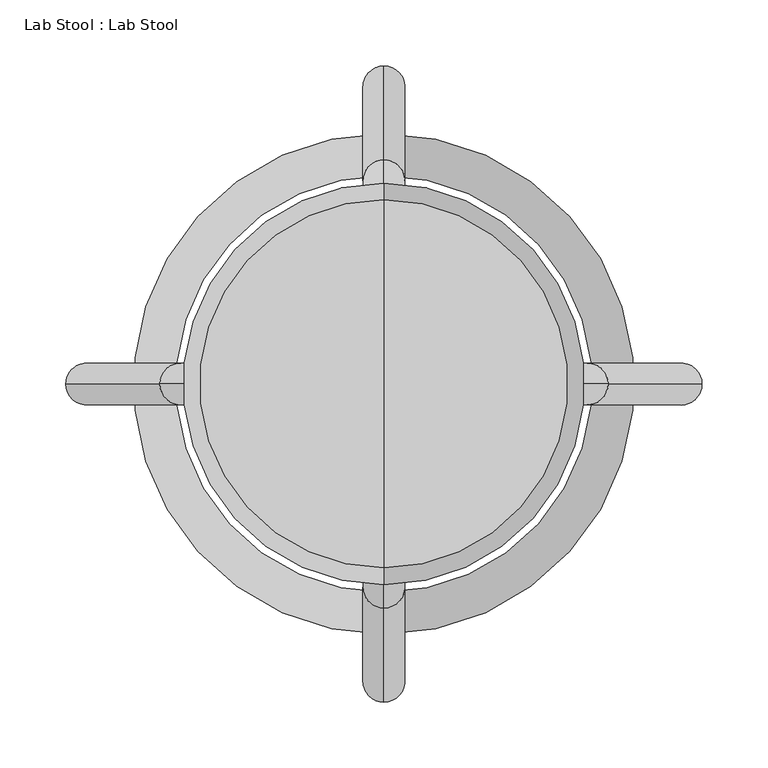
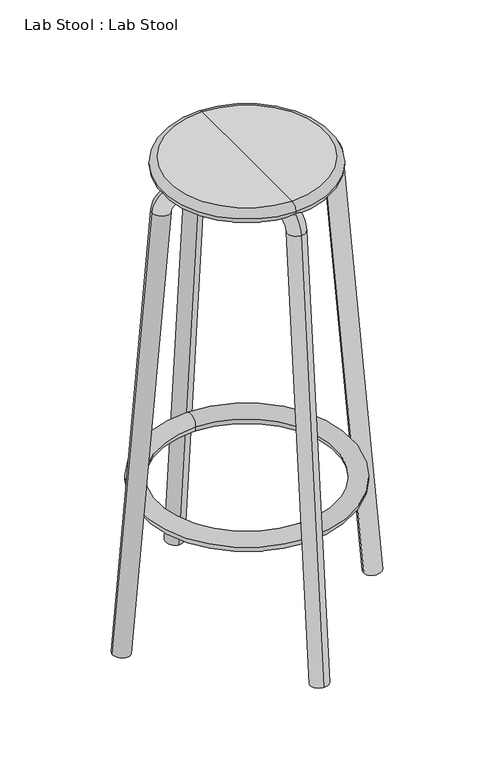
"""IFC4 building model written with IfcOpenShell, lengths in millimetres: furniture geometry, Lab Stool : Lab Stool."""

import ifcopenshell
import ifcopenshell.guid

model = None  # the IFC model being written
_history = None  # IfcOwnerHistory: only IFC2X3 demands one
_inside = {}  # id of a spatial element -> (the spatial element, [elements in it])
_under = {}  # id of a project, library or spatial element -> (it, [spatial elements below it])
_declared = {}  # id of a project -> (the project, [libraries it declares])
_typed = {}  # id of a type object -> (the type object, [elements of that type])
_made_of = {}  # id of a material, layer set ... -> (it, [elements and type objects made of it])


def new_model(schema):
    """Start an empty IFC model of exactly this schema.

    Asked for "IFC4X3", IfcOpenShell would pick the latest addendum, in which some entities
    have other attributes; the version numbers below select the first issue.
    IFC2X3 requires an IfcOwnerHistory on every rooted entity: one is made here for all.
    """
    global model, _history
    if schema == "IFC4X3":
        model = ifcopenshell.file(schema_version=(4, 3, 0, 0))
    else:
        model = ifcopenshell.file(schema=schema)
    _inside.clear()
    _under.clear()
    _declared.clear()
    _typed.clear()
    _made_of.clear()
    _history = None
    if model.schema == "IFC2X3":
        org = make("IfcOrganization", Name="unknown")
        user = make(
            "IfcPersonAndOrganization",
            ThePerson=make("IfcPerson", FamilyName="unknown"),
            TheOrganization=org,
        )
        app = make(
            "IfcApplication",
            ApplicationDeveloper=org,
            Version="unknown",
            ApplicationFullName="unknown",
            ApplicationIdentifier="unknown",
        )
        _history = make(
            "IfcOwnerHistory",
            OwningUser=user,
            OwningApplication=app,
            ChangeAction="ADDED",
            CreationDate=0,
        )
    return model


def make(cls, **values):
    """One entity of the class cls with the attributes given. An attribute that is None is left unset."""
    return model.create_entity(
        cls, **{name: value for name, value in values.items() if value is not None}
    )


def rooted(cls, **values):
    """An entity with a GlobalId (a new one), such as an element, a storey or a relation."""
    return make(cls, GlobalId=ifcopenshell.guid.new(), OwnerHistory=_history, **values)


def si_unit(unit_type, name, prefix=None):
    """IfcSIUnit, for example si_unit("LENGTHUNIT", "METRE", prefix="MILLI")."""
    return make("IfcSIUnit", UnitType=unit_type, Prefix=prefix, Name=name)


def assignment(units):
    """IfcUnitAssignment: the units of a project."""
    return None if units is None else make("IfcUnitAssignment", Units=units)


def point(xyz):
    """IfcCartesianPoint."""
    return None if xyz is None else make("IfcCartesianPoint", Coordinates=xyz)


def direction(xyz):
    """IfcDirection."""
    return None if xyz is None else make("IfcDirection", DirectionRatios=xyz)


def frame(location, z_axis=None, x_axis=None):
    """IfcAxis2Placement3D, a coordinate frame: its origin and axes. An axis left out is left unset."""
    return make(
        "IfcAxis2Placement3D",
        Location=point(location),
        Axis=direction(z_axis),
        RefDirection=direction(x_axis),
    )


def origin():
    """The frame at (0, 0, 0) with its axes left unset."""
    return frame((0.0, 0.0, 0.0))


def place(relative_to, where):
    """IfcLocalPlacement: puts the frame where relative to a parent placement (None: the world)."""
    return make(
        "IfcLocalPlacement", PlacementRelTo=relative_to, RelativePlacement=where
    )


def context(
    kind, dimensions, precision=None, world=None, true_north=None, identifier=None
):
    """IfcGeometricRepresentationContext, for example the 3D "Model" context."""
    return make(
        "IfcGeometricRepresentationContext",
        ContextIdentifier=identifier,
        ContextType=kind,
        CoordinateSpaceDimension=dimensions,
        Precision=precision,
        WorldCoordinateSystem=world,
        TrueNorth=true_north,
    )


def project(units=None, contexts=None):
    """IfcProject with its units and contexts."""
    return rooted(
        "IfcProject",
        Name="project",
        RepresentationContexts=contexts,
        UnitsInContext=assignment(units),
    )


def spatial(cls, under=None, at=None, **own):
    """A site, building, storey or space (cls), placed at a placement, below another one or the project."""
    s = rooted(cls, ObjectPlacement=at, **own)
    if under is not None:
        _under.setdefault(under.id(), (under, []))[1].append(s)
    return s


def circle_curve(where, radius):
    """IfcCircle in the frame where."""
    return make("IfcCircle", Position=where, Radius=radius)


def ellipse_curve(where, semi_axis1, semi_axis2):
    """IfcEllipse in the frame where."""
    return make(
        "IfcEllipse", Position=where, SemiAxis1=semi_axis1, SemiAxis2=semi_axis2
    )


def trimmed(basis, trim1, trim2, sense, master):
    """IfcTrimmedCurve: the piece of a basis curve between two trims."""
    return make(
        "IfcTrimmedCurve",
        BasisCurve=basis,
        Trim1=trim1,
        Trim2=trim2,
        SenseAgreement=sense,
        MasterRepresentation=master,
    )


def shape(context_of_items, identifier, shape_type, items):
    """IfcShapeRepresentation: the items that make up one representation, for example the "Body"."""
    return make(
        "IfcShapeRepresentation",
        ContextOfItems=context_of_items,
        RepresentationIdentifier=identifier,
        RepresentationType=shape_type,
        Items=items,
    )


def source(mapping_origin, context_of_items, identifier, shape_type, items):
    """IfcRepresentationMap: a shape defined once, which mapped items show again and again."""
    return make(
        "IfcRepresentationMap",
        MappingOrigin=mapping_origin,
        MappedRepresentation=shape(context_of_items, identifier, shape_type, items),
    )


def transform(
    local_origin,
    x_axis=None,
    y_axis=None,
    z_axis=None,
    scale=None,
    scale2=None,
    scale3=None,
    uniform=True,
):
    """IfcCartesianTransformationOperator3D, or its non-uniform kind. x_axis, y_axis, z_axis: its Axis1, 2, 3."""
    if uniform:
        return make(
            "IfcCartesianTransformationOperator3D",
            Axis1=direction(x_axis),
            Axis2=direction(y_axis),
            LocalOrigin=point(local_origin),
            Scale=scale,
            Axis3=direction(z_axis),
        )
    return make(
        "IfcCartesianTransformationOperator3DnonUniform",
        Axis1=direction(x_axis),
        Axis2=direction(y_axis),
        LocalOrigin=point(local_origin),
        Scale=scale,
        Axis3=direction(z_axis),
        Scale2=scale2,
        Scale3=scale3,
    )


def mapped(mapping_source, mapping_target):
    """IfcMappedItem: shows the shape of a source again, moved by a transform."""
    return make(
        "IfcMappedItem", MappingSource=mapping_source, MappingTarget=mapping_target
    )


def made_of(thing, what):
    """Note that an element or type object is made of a material, layer set ...; save() writes the relation."""
    if what is not None:
        _made_of.setdefault(what.id(), (what, []))[1].append(thing)
    return thing


def element(
    cls,
    number,
    at=None,
    inside=None,
    cuts=None,
    type_object=None,
    material=None,
    context=None,
    identifier="Body",
    shape_type=None,
    held_by="IfcProductDefinitionShape",
    body=None,
    shapes=None,
    **own,
):
    """One element of the class cls, such as IfcWall. Its Tag is "e" and its number.

    at: its placement. inside: the storey or other place that contains it. cuts: it is an
    opening in that element (IfcRelVoidsElement). A single representation is given by context,
    identifier, shape_type and body (its items); several are given by shapes. held_by: the class
    of the entity that holds the representations. save() writes the other relations.
    """
    e = rooted(cls, Tag="e%d" % number, ObjectPlacement=at, **own)
    if body is not None:
        shapes = [shape(context, identifier, shape_type, body)]
    if shapes is not None:
        e.Representation = make(held_by, Representations=shapes)
    if inside is not None:
        _inside.setdefault(inside.id(), (inside, []))[1].append(e)
    if cuts is not None:
        rooted(
            "IfcRelVoidsElement", RelatingBuildingElement=cuts, RelatedOpeningElement=e
        )
    if type_object is not None:
        _typed.setdefault(type_object.id(), (type_object, []))[1].append(e)
    return made_of(e, material)


def aggregate(whole, parts):
    """IfcRelAggregates: a whole, such as a stair, and the parts it consists of."""
    return rooted("IfcRelAggregates", RelatingObject=whole, RelatedObjects=parts)


def save(model, path):
    """Write the relations noted so far, then the file.

    IfcRelAggregates (storeys below a building ...), IfcRelContainedInSpatialStructure (elements
    in a storey), IfcRelDefinesByType, IfcRelAssociatesMaterial and IfcRelDeclares: one each for
    every whole, place, type object, material and project.
    """
    for whole, parts in _under.values():
        aggregate(whole, parts)
    for where, things in _inside.values():
        rooted(
            "IfcRelContainedInSpatialStructure",
            RelatedElements=things,
            RelatingStructure=where,
        )
    for kind, things in _typed.values():
        rooted("IfcRelDefinesByType", RelatedObjects=things, RelatingType=kind)
    for what, things in _made_of.values():
        rooted("IfcRelAssociatesMaterial", RelatedObjects=things, RelatingMaterial=what)
    for by, libraries in _declared.values():
        rooted("IfcRelDeclares", RelatingContext=by, RelatedDefinitions=libraries)
    model.write(path)


def plane_surface(at):
    """IfcPlane: the flat surface through the origin of the frame at, square to its z axis."""
    return make("IfcPlane", Position=at)


def cylinder_surface(at, radius):
    """IfcCylindricalSurface: all points at the distance radius from the z axis of the frame at."""
    return make("IfcCylindricalSurface", Position=at, Radius=radius)


def revolved_surface(curve, axis_point, axis_direction):
    """IfcSurfaceOfRevolution: the curve turned about the line through axis_point along axis_direction."""
    return make(
        "IfcSurfaceOfRevolution",
        SweptCurve=make("IfcArbitraryOpenProfileDef", ProfileType="CURVE", Curve=curve),
        AxisPosition=make("IfcAxis1Placement", Location=point(axis_point), Axis=direction(axis_direction)),
    )


def advanced_brep(points, edges, surfaces, faces):
    """IfcAdvancedBrep: a solid bounded by faces that lie on surfaces and meet in shared edges.

    An edge is (start, end): straight between two places in points (the first is 0);
    or (start, end, curve); or (start, end, curve, False) where it runs against its curve.
    A face is (place in surfaces, loops), or (place, loops, False) where it looks against
    its surface's normal. A loop lists edges by number (the first is 1), with a minus sign
    where the edge is run from its end to its start. The first loop is the outer one.
    """
    corners = [point(p) for p in points]
    vertices = [make("IfcVertexPoint", VertexGeometry=c) for c in corners]
    made = []
    for start, end, *more in edges:
        made.append(
            make(
                "IfcEdgeCurve",
                EdgeStart=vertices[start],
                EdgeEnd=vertices[end],
                EdgeGeometry=more[0] if more else make("IfcPolyline", Points=[corners[start], corners[end]]),
                SameSense=more[1] if len(more) > 1 else True,
            )
        )
    hull = []
    for where, loops, *sense in faces:
        bounds = []
        for j, loop in enumerate(loops):
            ring = [make("IfcOrientedEdge", EdgeElement=made[abs(k) - 1], Orientation=k > 0) for k in loop]
            bounds.append(
                make(
                    "IfcFaceOuterBound" if j == 0 else "IfcFaceBound",
                    Bound=make("IfcEdgeLoop", EdgeList=ring),
                    Orientation=True,
                )
            )
        hull.append(make("IfcAdvancedFace", Bounds=bounds, FaceSurface=surfaces[where], SameSense=sense[0] if sense else True))
    return make("IfcAdvancedBrep", Outer=make("IfcClosedShell", CfsFaces=hull))


def lab_stool_lab_stool_8e3c4d68(model_context):
    return source(origin(), model_context, "Body", "AdvancedBrep", [
        advanced_brep(
        [(0.0, -190.040799, 253.5609407), (0.0, 190.040799, 253.5609407), (0.0, 158.290799, 253.5609407), (0.0, -158.290799, 253.5609407)],
        [
            (0, 1, circle_curve(frame((0.0, 0.0, 253.5609407), z_axis=(0.0, 0.0, 1.0), x_axis=(0.0, 1.0, 0.0)), 190.040799)),
            (1, 2, circle_curve(frame((0.0, 174.165799, 253.5609407), z_axis=(1.0, 0.0, 0.0), x_axis=(0.0, 1.0, 0.0)), 15.875)),
            (2, 3, circle_curve(frame((0.0, 0.0, 253.5609407), z_axis=(0.0, 0.0, -1.0), x_axis=(0.0, 1.0, 0.0)), 158.290799)),
            (3, 0, circle_curve(frame((0.0, -174.165799, 253.5609407), z_axis=(1.0, 0.0, 0.0), x_axis=(0.0, -1.0, 0.0)), 15.875)),
            (2, 1, circle_curve(frame((0.0, 174.165799, 253.5609407), z_axis=(1.0, 0.0, 0.0), x_axis=(0.0, 1.0, 0.0)), 15.875)),
            (0, 3, circle_curve(frame((0.0, -174.165799, 253.5609407), z_axis=(1.0, 0.0, 0.0), x_axis=(0.0, -1.0, 0.0)), 15.875)),
            (1, 0, circle_curve(frame((0.0, 0.0, 253.5609407), z_axis=(0.0, 0.0, 1.0), x_axis=(0.0, -1.0, 0.0)), 190.040799)),
            (3, 2, circle_curve(frame((0.0, 0.0, 253.5609407), z_axis=(0.0, 0.0, -1.0), x_axis=(0.0, -1.0, 0.0)), 158.290799)),
        ],
        [
            revolved_surface(trimmed(ellipse_curve(frame((0.0, 174.165799, 253.5609407), z_axis=(-1.0, 0.0, 0.0), x_axis=(0.0, 1.0, 0.0)), 15.875, 15.875), [point((0.0, 158.290799, 253.5609407))], [point((0.0, 190.040799, 253.5609407))], True, "CARTESIAN"), (0.0, 0.0, 254.0), (0.0, 0.0, -1.0)),
            revolved_surface(trimmed(ellipse_curve(frame((0.0, 174.165799, 253.5609407), z_axis=(-1.0, 0.0, 0.0), x_axis=(0.0, 1.0, 0.0)), 15.875, 15.875), [point((0.0, 190.040799, 253.5609407))], [point((0.0, 158.290799, 253.5609407))], True, "CARTESIAN"), (0.0, 0.0, 254.0), (0.0, 0.0, -1.0)),
            revolved_surface(trimmed(ellipse_curve(frame((0.0, -174.165799, 253.5609407), z_axis=(1.0, 0.0, 0.0), x_axis=(0.0, -1.0, 0.0)), 15.875, 15.875), [point((0.0, -158.290799, 253.5609407))], [point((0.0, -190.040799, 253.5609407))], True, "CARTESIAN"), (0.0, 0.0, 254.0), (0.0, 0.0, -1.0)),
            revolved_surface(trimmed(ellipse_curve(frame((0.0, -174.165799, 253.5609407), z_axis=(1.0, 0.0, 0.0), x_axis=(0.0, -1.0, 0.0)), 15.875, 15.875), [point((0.0, -190.040799, 253.5609407))], [point((0.0, -158.290799, 253.5609407))], True, "CARTESIAN"), (0.0, 0.0, 254.0), (0.0, 0.0, -1.0)),
        ],
        [
            (0, [[1, 2, 3, 4]]),
            (1, [[-3, 5, -1, 6]]),
            (2, [[7, -4, 8, -2]]),
            (3, [[-8, -6, -7, -5]]),
        ],
    ),
        advanced_brep(
        [(0.0, 0.0, 863.6), (0.0, 139.7, 863.6), (0.0, -139.7, 863.6), (0.0, -139.7, 838.2), (0.0, 139.7, 838.2), (0.0, 0.0, 838.2), (0.0, -152.4, 850.9), (0.0, 152.4, 850.9)],
        [
            (0, 1),
            (1, 2, circle_curve(frame((0.0, 0.0, 863.6), z_axis=(0.0, 0.0, 1.0), x_axis=(0.0, 1.0, 0.0)), 139.7)),
            (2, 0),
            (2, 1, circle_curve(frame((0.0, 0.0, 863.6), z_axis=(0.0, 0.0, 1.0), x_axis=(0.0, 1.0, 0.0)), 139.7)),
            (3, 4, circle_curve(frame((0.0, 0.0, 838.2), z_axis=(0.0, 0.0, -1.0), x_axis=(0.0, 1.0, 0.0)), 139.7)),
            (4, 5),
            (5, 3),
            (4, 3, circle_curve(frame((0.0, 0.0, 838.2), z_axis=(0.0, 0.0, -1.0), x_axis=(0.0, 1.0, 0.0)), 139.7)),
            (6, 7, circle_curve(frame((0.0, 0.0, 850.9), z_axis=(0.0, 0.0, -1.0), x_axis=(0.0, 1.0, 0.0)), 152.4)),
            (7, 4, circle_curve(frame((0.0, 139.7, 850.9), z_axis=(-1.0, 0.0, 0.0), x_axis=(0.0, 1.0, 0.0)), 12.7)),
            (3, 6, circle_curve(frame((0.0, -139.7, 850.9), z_axis=(-1.0, 0.0, 0.0), x_axis=(0.0, -1.0, 0.0)), 12.7)),
            (7, 6, circle_curve(frame((0.0, 0.0, 850.9), z_axis=(0.0, 0.0, -1.0), x_axis=(0.0, 1.0, 0.0)), 152.4)),
            (1, 7, circle_curve(frame((0.0, 139.7, 850.9), z_axis=(-1.0, 0.0, 0.0), x_axis=(0.0, 1.0, 0.0)), 12.7)),
            (6, 2, circle_curve(frame((0.0, -139.7, 850.9), z_axis=(-1.0, 0.0, 0.0), x_axis=(0.0, -1.0, 0.0)), 12.7)),
        ],
        [
            plane_surface(frame((0.0, 0.0, 863.6), z_axis=(0.0, 0.0, 1.0), x_axis=(0.0, 1.0, 0.0))),
            plane_surface(frame((0.0, 0.0, 838.2), z_axis=(0.0, 0.0, -1.0), x_axis=(0.0, 1.0, 0.0))),
            revolved_surface(trimmed(ellipse_curve(frame((0.0, 139.7, 850.9), z_axis=(1.0, 0.0, 0.0), x_axis=(0.0, 1.0, 0.0)), 12.7, 12.7), [point((0.0, 139.7, 838.2))], [point((0.0, 152.4, 850.9))], True, "CARTESIAN"), (0.0, 0.0, 914.4), (0.0, 0.0, 1.0)),
            revolved_surface(trimmed(ellipse_curve(frame((0.0, 139.7, 850.9), z_axis=(1.0, 0.0, 0.0), x_axis=(0.0, 1.0, 0.0)), 12.7, 12.7), [point((0.0, 152.4, 850.9))], [point((0.0, 139.7, 863.6))], True, "CARTESIAN"), (0.0, 0.0, 914.4), (0.0, 0.0, 1.0)),
        ],
        [
            (0, [[1, 2, 3]]),
            (0, [[-3, 4, -1]]),
            (1, [[5, 6, 7]]),
            (1, [[8, -7, -6]]),
            (2, [[9, 10, -5, 11]]),
            (2, [[12, -11, -8, -10]]),
            (3, [[-2, 13, -9, 14]]),
            (3, [[-4, -14, -12, -13]]),
        ],
    ),
        advanced_brep(
        [(0.0, -209.9184069, -1.3835974), (0.0, -241.5475886, 1.3835974), (0.0, -138.6139427, 813.6301584), (0.0, -170.2431243, 816.3973533), (0.0, -129.1251882, 854.075), (0.0, -129.1251882, 822.325), (0.0, 129.1251882, 822.325), (0.0, 129.1251882, 854.075), (0.0, 170.2431243, 816.3973533), (0.0, 138.6139427, 813.6301584), (0.0, 209.9184069, -1.3835974), (0.0, 241.5475886, 1.3835974)],
        [
            (0, 1, circle_curve(frame((0.0, -225.7329978, 0.0), z_axis=(0.0, -0.08715574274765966, -0.9961946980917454), x_axis=(0.0, -0.9961946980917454, 0.08715574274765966)), 15.875)),
            (1, 0, circle_curve(frame((0.0, -225.7329978, 0.0), z_axis=(0.0, -0.08715574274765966, -0.9961946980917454), x_axis=(0.0, -0.9961946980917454, 0.08715574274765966)), 15.875)),
            (0, 2),
            (2, 3, circle_curve(frame((0.0, -154.4285335, 815.0137559), z_axis=(0.0, -0.08715574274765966, -0.9961946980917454), x_axis=(0.0, -0.9961946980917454, 0.08715574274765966)), 15.875)),
            (3, 1),
            (3, 2, circle_curve(frame((0.0, -154.4285335, 815.0137559), z_axis=(0.0, -0.08715574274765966, -0.9961946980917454), x_axis=(0.0, -0.9961946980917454, 0.08715574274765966)), 15.875)),
            (4, 3, circle_curve(frame((0.0, -129.1251882, 812.8), z_axis=(1.0, 0.0, 0.0), x_axis=(0.0, -0.9961946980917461, 0.08715574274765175)), 41.275)),
            (2, 5, circle_curve(frame((0.0, -129.1251882, 812.8), z_axis=(-1.0, 0.0, 0.0), x_axis=(0.0, -0.9961946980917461, 0.08715574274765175)), 9.525)),
            (5, 4, circle_curve(frame((0.0, -129.1251882, 838.2), z_axis=(0.0, -1.0, 0.0), x_axis=(0.0, 0.0, 1.0)), 15.875)),
            (4, 5, circle_curve(frame((0.0, -129.1251882, 838.2), z_axis=(0.0, -1.0, 0.0), x_axis=(0.0, 0.0, 1.0)), 15.875)),
            (5, 6),
            (6, 7, circle_curve(frame((0.0, 129.1251882, 838.2), z_axis=(0.0, -1.0, 0.0), x_axis=(0.0, 0.0, 1.0)), 15.875)),
            (7, 4),
            (7, 6, circle_curve(frame((0.0, 129.1251882, 838.2), z_axis=(0.0, -1.0, 0.0), x_axis=(0.0, 0.0, 1.0)), 15.875)),
            (8, 7, circle_curve(frame((0.0, 129.1251882, 812.8), z_axis=(1.0, 0.0, 0.0), x_axis=(0.0, 0.0, 1.0)), 41.275)),
            (6, 9, circle_curve(frame((0.0, 129.1251882, 812.8), z_axis=(-1.0, 0.0, 0.0), x_axis=(0.0, 0.0, 1.0)), 9.525)),
            (9, 8, circle_curve(frame((0.0, 154.4285335, 815.0137559), z_axis=(0.0, -0.08715574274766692, 0.9961946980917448), x_axis=(0.0, 0.9961946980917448, 0.08715574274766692)), 15.875)),
            (8, 9, circle_curve(frame((0.0, 154.4285335, 815.0137559), z_axis=(0.0, -0.08715574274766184, 0.9961946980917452), x_axis=(0.0, 0.9961946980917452, 0.08715574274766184)), 15.875)),
            (10, 11, circle_curve(frame((0.0, 225.7329978, 0.0), z_axis=(0.0, 0.08715574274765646, -0.9961946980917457), x_axis=(0.0, 0.9961946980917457, 0.08715574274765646)), 15.875)),
            (11, 10, circle_curve(frame((0.0, 225.7329978, 0.0), z_axis=(0.0, 0.08715574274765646, -0.9961946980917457), x_axis=(0.0, 0.9961946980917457, 0.08715574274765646)), 15.875)),
            (9, 10),
            (11, 8),
        ],
        [
            plane_surface(frame((0.0, -241.5475886, 1.3835974), z_axis=(0.0, -0.08715574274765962, -0.9961946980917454), x_axis=(1.0, 0.0, 0.0))),
            cylinder_surface(frame((0.0, -225.7329978, 0.0), z_axis=(0.0, -0.08715574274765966, -0.9961946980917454), x_axis=(0.0, -0.9961946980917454, 0.08715574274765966)), 15.875),
            revolved_surface(trimmed(ellipse_curve(frame((0.0, -154.4285335, 815.0137559), z_axis=(0.0, -0.08715574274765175, -0.9961946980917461), x_axis=(0.0, -0.9961946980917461, 0.08715574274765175)), 15.875, 15.875), [point((0.0, -138.6139427, 813.6301584))], [point((0.0, -170.2431243, 816.3973533))], True, "CARTESIAN"), (0.0, -129.1251882, 812.8), (-1.0, 0.0, 0.0)),
            revolved_surface(trimmed(ellipse_curve(frame((0.0, -154.4285335, 815.0137559), z_axis=(0.0, -0.08715574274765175, -0.9961946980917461), x_axis=(0.0, -0.9961946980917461, 0.08715574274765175)), 15.875, 15.875), [point((0.0, -170.2431243, 816.3973533))], [point((0.0, -138.6139427, 813.6301584))], True, "CARTESIAN"), (0.0, -129.1251882, 812.8), (-1.0, 0.0, 0.0)),
            cylinder_surface(frame((0.0, -129.1251882, 838.2), z_axis=(0.0, -1.0, 0.0), x_axis=(0.0, 0.0, 1.0)), 15.875),
            revolved_surface(trimmed(ellipse_curve(frame((0.0, 129.1251882, 838.2), z_axis=(0.0, -1.0, 0.0), x_axis=(0.0, 0.0, 1.0)), 15.875, 15.875), [point((0.0, 129.1251882, 822.325))], [point((0.0, 129.1251882, 854.075))], True, "CARTESIAN"), (0.0, 129.1251882, 812.8), (-1.0, 0.0, 0.0)),
            revolved_surface(trimmed(ellipse_curve(frame((0.0, 129.1251882, 838.2), z_axis=(0.0, -1.0, 0.0), x_axis=(0.0, 0.0, 1.0)), 15.875, 15.875), [point((0.0, 129.1251882, 854.075))], [point((0.0, 129.1251882, 822.325))], True, "CARTESIAN"), (0.0, 129.1251882, 812.8), (-1.0, 0.0, 0.0)),
            plane_surface(frame((0.0, 241.5475886, 1.3835974), z_axis=(0.0, 0.08715574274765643, -0.9961946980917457), x_axis=(1.0, 0.0, 0.0))),
            cylinder_surface(frame((0.0, 154.4285335, 815.0137559), z_axis=(0.0, -0.08715574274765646, 0.9961946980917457), x_axis=(0.0, 0.9961946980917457, 0.08715574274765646)), 15.875),
        ],
        [
            (0, [[1, 2]]),
            (1, [[-1, 3, 4, 5]]),
            (1, [[-2, -5, 6, -3]]),
            (2, [[7, -4, 8, 9]]),
            (3, [[-8, -6, -7, 10]]),
            (4, [[-9, 11, 12, 13]]),
            (4, [[-10, -13, 14, -11]]),
            (5, [[15, -12, 16, 17]]),
            (6, [[-16, -14, -15, 18]]),
            (7, [[19, 20]]),
            (8, [[-17, 21, -20, 22]]),
            (8, [[-18, -22, -19, -21]]),
        ],
    ),
        advanced_brep(
        [(241.5475886, 0.0, 1.3835974), (209.9184069, 0.0, -1.3835974), (170.2431243, 0.0, 816.3973533), (138.6139427, 0.0, 813.6301584), (129.1251882, 0.0, 822.325), (129.1251882, 0.0, 854.075), (-129.1251882, 0.0, 854.075), (-129.1251882, 0.0, 822.325), (-138.6139427, 0.0, 813.6301584), (-170.2431243, 0.0, 816.3973533), (-241.5475886, 0.0, 1.3835974), (-209.9184069, 0.0, -1.3835974)],
        [
            (0, 1, circle_curve(frame((225.7329978, 0.0, 0.0), z_axis=(0.08715574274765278, 0.0, -0.996194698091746), x_axis=(-0.996194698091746, 0.0, -0.08715574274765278)), 15.875)),
            (1, 0, circle_curve(frame((225.7329978, 0.0, 0.0), z_axis=(0.08715574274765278, 0.0, -0.996194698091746), x_axis=(-0.996194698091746, 0.0, -0.08715574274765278)), 15.875)),
            (0, 2),
            (2, 3, circle_curve(frame((154.4285335, 0.0, 815.0137559), z_axis=(0.08715574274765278, 0.0, -0.996194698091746), x_axis=(-0.996194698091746, 0.0, -0.08715574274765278)), 15.875)),
            (3, 1),
            (3, 2, circle_curve(frame((154.4285335, 0.0, 815.0137559), z_axis=(0.08715574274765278, 0.0, -0.996194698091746), x_axis=(-0.996194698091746, 0.0, -0.08715574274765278)), 15.875)),
            (4, 3, circle_curve(frame((129.1251882, 0.0, 812.8), z_axis=(0.0, 1.0, 0.0), x_axis=(0.9961946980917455, 0.0, 0.08715574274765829)), 9.525)),
            (2, 5, circle_curve(frame((129.1251882, 0.0, 812.8), z_axis=(0.0, -1.0, 0.0), x_axis=(0.9961946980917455, 0.0, 0.08715574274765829)), 41.275)),
            (5, 4, circle_curve(frame((129.1251882, 0.0, 838.2), z_axis=(1.0, 0.0, 0.0), x_axis=(0.0, 0.0, -1.0)), 15.875)),
            (4, 5, circle_curve(frame((129.1251882, 0.0, 838.2), z_axis=(1.0, 0.0, 0.0), x_axis=(0.0, 0.0, -1.0)), 15.875)),
            (5, 6),
            (6, 7, circle_curve(frame((-129.1251882, 0.0, 838.2), z_axis=(1.0, 0.0, 0.0), x_axis=(0.0, 0.0, -1.0)), 15.875)),
            (7, 4),
            (7, 6, circle_curve(frame((-129.1251882, 0.0, 838.2), z_axis=(1.0, 0.0, 0.0), x_axis=(0.0, 0.0, -1.0)), 15.875)),
            (8, 7, circle_curve(frame((-129.1251882, 0.0, 812.8), z_axis=(0.0, 1.0, 0.0), x_axis=(0.0, 0.0, 1.0)), 9.525)),
            (6, 9, circle_curve(frame((-129.1251882, 0.0, 812.8), z_axis=(0.0, -1.0, 0.0), x_axis=(0.0, 0.0, 1.0)), 41.275)),
            (9, 8, circle_curve(frame((-154.4285335, 0.0, 815.0137559), z_axis=(0.08715574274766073, 0.0, 0.9961946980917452), x_axis=(0.9961946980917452, 0.0, -0.08715574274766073)), 15.875)),
            (8, 9, circle_curve(frame((-154.4285335, 0.0, 815.0137559), z_axis=(0.08715574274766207, 0.0, 0.9961946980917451), x_axis=(0.9961946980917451, 0.0, -0.08715574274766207)), 15.875)),
            (10, 11, circle_curve(frame((-225.7329978, 0.0, 0.0), z_axis=(-0.08715574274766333, 0.0, -0.9961946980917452), x_axis=(0.9961946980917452, 0.0, -0.08715574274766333)), 15.875)),
            (11, 10, circle_curve(frame((-225.7329978, 0.0, 0.0), z_axis=(-0.08715574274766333, 0.0, -0.9961946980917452), x_axis=(0.9961946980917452, 0.0, -0.08715574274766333)), 15.875)),
            (9, 10),
            (11, 8),
        ],
        [
            plane_surface(frame((225.7329978, -15.875, 0.0), z_axis=(0.08715574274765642, 0.0, -0.9961946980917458), x_axis=(0.9961946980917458, 0.0, 0.08715574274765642))),
            cylinder_surface(frame((225.7329978, 0.0, 0.0), z_axis=(0.08715574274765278, 0.0, -0.996194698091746), x_axis=(-0.996194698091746, 0.0, -0.08715574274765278)), 15.875),
            revolved_surface(trimmed(ellipse_curve(frame((154.4285335, 0.0, 815.0137559), z_axis=(0.08715574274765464, 0.0, -0.9961946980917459), x_axis=(-0.9961946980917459, 0.0, -0.08715574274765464)), 15.875, 15.875), [point((170.2431243, 0.0, 816.3973533))], [point((138.6139427, 0.0, 813.6301584))], True, "CARTESIAN"), (129.1251882, 0.0, 812.8), (0.0, -1.0, 0.0)),
            revolved_surface(trimmed(ellipse_curve(frame((154.4285335, 0.0, 815.0137559), z_axis=(0.08715574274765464, 0.0, -0.9961946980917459), x_axis=(-0.9961946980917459, 0.0, -0.08715574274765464)), 15.875, 15.875), [point((138.6139427, 0.0, 813.6301584))], [point((170.2431243, 0.0, 816.3973533))], True, "CARTESIAN"), (129.1251882, 0.0, 812.8), (0.0, -1.0, 0.0)),
            cylinder_surface(frame((129.1251882, 0.0, 838.2), z_axis=(1.0, 0.0, 0.0), x_axis=(0.0, 0.0, -1.0)), 15.875),
            revolved_surface(trimmed(ellipse_curve(frame((-129.1251882, 0.0, 838.2), z_axis=(1.0, 0.0, 0.0), x_axis=(0.0, 0.0, -1.0)), 15.875, 15.875), [point((-129.1251882, 0.0, 854.075))], [point((-129.1251882, 0.0, 822.325))], True, "CARTESIAN"), (-129.1251882, 0.0, 812.8), (0.0, -1.0, 0.0)),
            revolved_surface(trimmed(ellipse_curve(frame((-129.1251882, 0.0, 838.2), z_axis=(1.0, 0.0, 0.0), x_axis=(0.0, 0.0, -1.0)), 15.875, 15.875), [point((-129.1251882, 0.0, 822.325))], [point((-129.1251882, 0.0, 854.075))], True, "CARTESIAN"), (-129.1251882, 0.0, 812.8), (0.0, -1.0, 0.0)),
            plane_surface(frame((-225.7329978, 15.875, 0.0), z_axis=(-0.08715574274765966, 0.0, -0.9961946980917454), x_axis=(0.9961946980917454, 0.0, -0.08715574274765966))),
            cylinder_surface(frame((-154.4285335, 0.0, 815.0137559), z_axis=(0.08715574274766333, 0.0, 0.9961946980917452), x_axis=(0.9961946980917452, 0.0, -0.08715574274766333)), 15.875),
        ],
        [
            (0, [[1, 2]]),
            (1, [[-1, 3, 4, 5]]),
            (1, [[-2, -5, 6, -3]]),
            (2, [[7, -4, 8, 9]]),
            (3, [[-8, -6, -7, 10]]),
            (4, [[-9, 11, 12, 13]]),
            (4, [[-10, -13, 14, -11]]),
            (5, [[15, -12, 16, 17]]),
            (6, [[-16, -14, -15, 18]]),
            (7, [[19, 20]]),
            (8, [[-17, 21, -20, 22]]),
            (8, [[-18, -22, -19, -21]]),
        ],
    ),
    ])


if __name__ == "__main__":
    model = new_model("IFC4")
    model_context = context("Model", 3, world=origin())
    ifc_project = project(units=[si_unit("LENGTHUNIT", "METRE", prefix="MILLI")], contexts=[model_context])
    site = spatial("IfcSite", under=ifc_project)
    building = spatial("IfcBuilding", under=site)
    placement = place(None, origin())
    lab_stool_lab_stool_shape = lab_stool_lab_stool_8e3c4d68(model_context)
    element("IfcFurniture", 1, ObjectType="Lab Stool : Lab Stool", at=placement, inside=building, context=model_context, shape_type="MappedRepresentation", body=[
        mapped(lab_stool_lab_stool_shape, transform((0.0, 0.0, 0.0), x_axis=(1.0, 0.0, 0.0), y_axis=(0.0, 1.0, 0.0), z_axis=(0.0, 0.0, 1.0))),
    ])
    save(model, "model.ifc")
